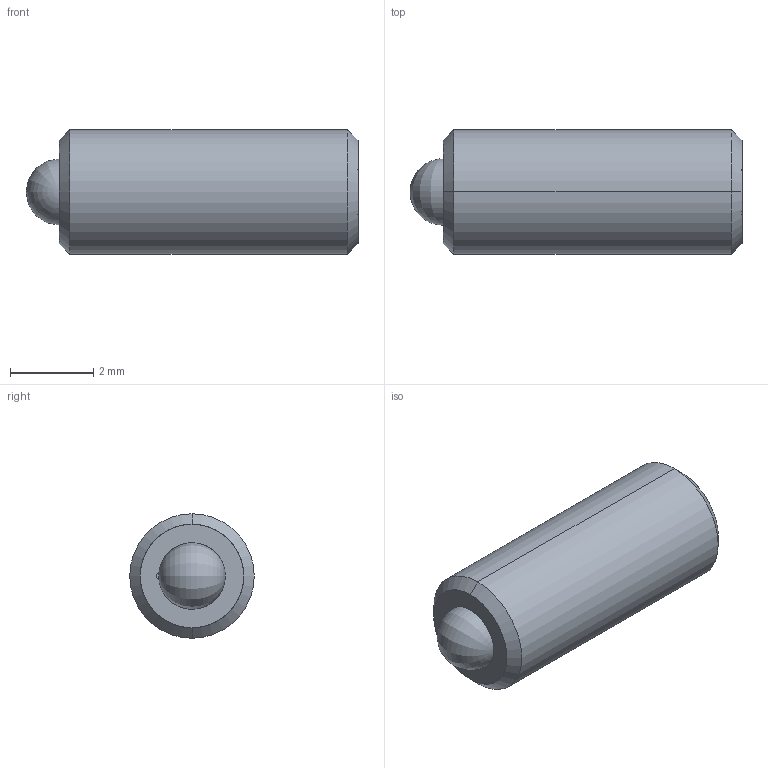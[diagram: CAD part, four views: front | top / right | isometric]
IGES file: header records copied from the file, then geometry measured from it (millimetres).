
Start section: SolidWorks IGES file using analytic representation for surfaces
Global section: file name: C:\Users\workpc\Desktop\KMA Solidworks\TS3-20 Series\TS3-20 High Vacuum\TS3-20 High Vacuum 3D Models\TS3-20-08-HV.IGS; native system: SolidWorks 2013; preprocessor: SolidWorks 2013; author: workpc; date: 130510.112132; units: millimetre
Bounding box: 8 x 3 x 3 mm (x, y, z)
Surface area: 101.5 mm2 (no closed solid volume)
Topology: 0 solids, 0 shells, 24 faces, 208 edges, 204 vertices
Faces by surface type: revolution 14, bspline 10
